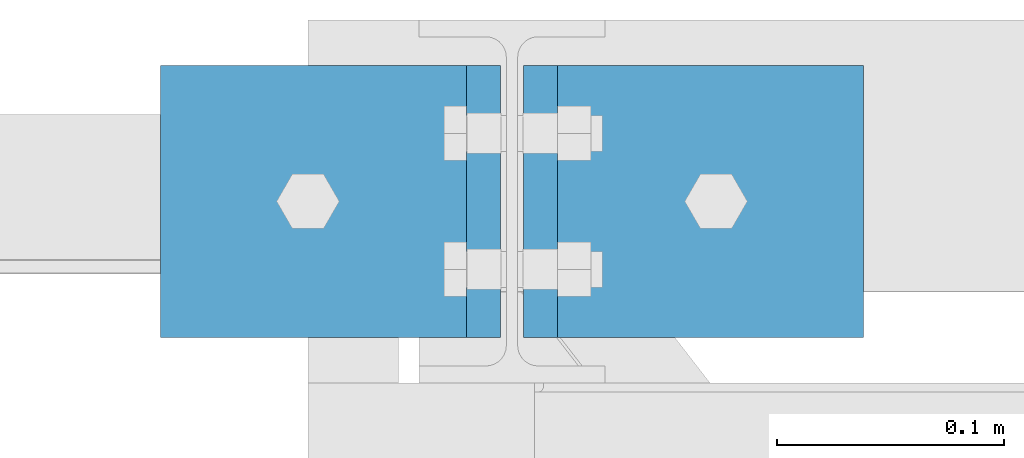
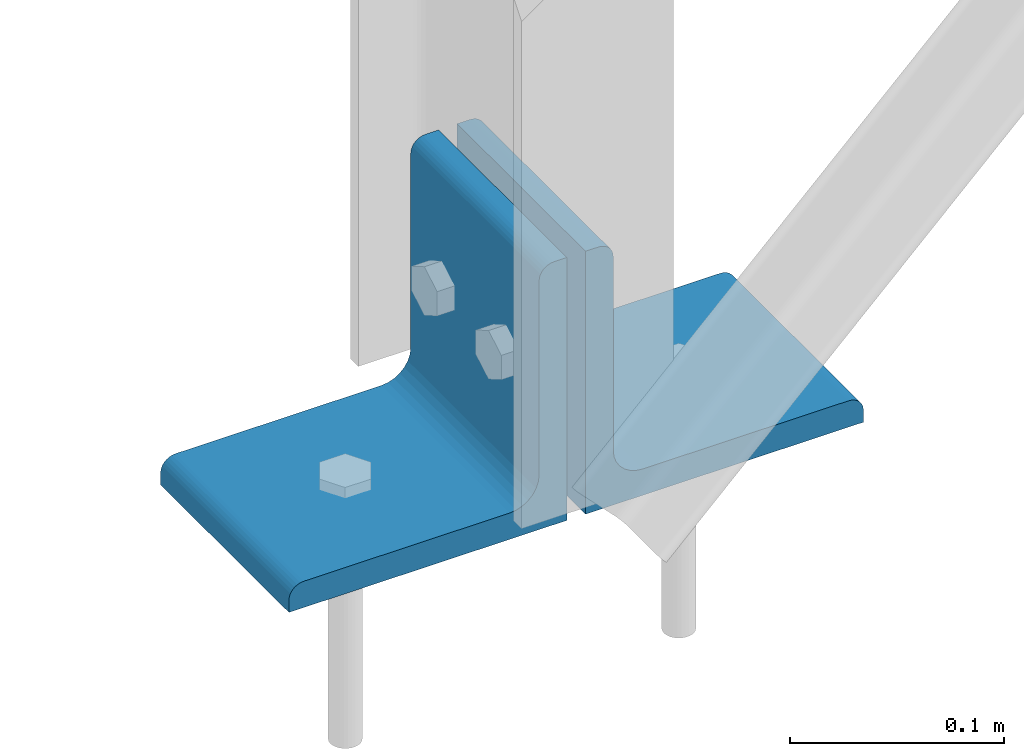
# One storey, part 47 of 123: 2 beams, 2 elements without a shape of their own.
"""IFC2X3 building model written with IfcOpenShell, lengths in millimetres."""

from ifc_helpers import new_model, si_unit, frame, origin_with_axes, origin_2d_with_axis, place, context, subcontext, project, spatial, l_section, extrude, material, type_object, element, aggregate, save


model = new_model("IFC2X3")

# Units and contexts
model_context = context("Model", 3, precision=1e-05, world=origin_with_axes())
body_context = subcontext(model_context, "Body", "Model", "MODEL_VIEW")
ifc_project = project(units=[si_unit("LENGTHUNIT", "METRE", prefix="MILLI"), si_unit("AREAUNIT", "SQUARE_METRE"), si_unit("VOLUMEUNIT", "CUBIC_METRE"), si_unit("MASSUNIT", "GRAM", prefix="KILO"), si_unit("TIMEUNIT", "SECOND"), si_unit("PLANEANGLEUNIT", "RADIAN"), si_unit("SOLIDANGLEUNIT", "STERADIAN"), si_unit("THERMODYNAMICTEMPERATUREUNIT", "DEGREE_CELSIUS"), si_unit("LUMINOUSINTENSITYUNIT", "LUMEN")], contexts=[model_context])

# Site, building, storey
site_placement = place(None, origin_with_axes())
site = spatial("IfcSite", under=ifc_project, at=site_placement, Name="Undefined", CompositionType="ELEMENT")
building_placement = place(site_placement, origin_with_axes())
building = spatial("IfcBuilding", under=site, at=building_placement, Name="Undefined", CompositionType="ELEMENT")
storey_placement = place(building_placement, origin_with_axes())
storey = spatial("IfcBuildingStorey", under=building, at=storey_placement, Name="Undefined", CompositionType="ELEMENT", Elevation=0.0)

# Assembly, beam
assembly_1_placement = place(storey_placement, origin_with_axes())
assembly_1 = element("IfcElementAssembly", 1, at=assembly_1_placement, inside=storey, Name="Steel Assembly", AssemblyPlace="NOTDEFINED", PredefinedType="RIGID_FRAME")
ifc_material = material(Name="STEEL/S235-E24")
beam_type = type_object("IfcBeamType", Name="L150*15", PredefinedType="NOTDEFINED")
beam_1_placement = place(assembly_1_placement, frame((28850.0000297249, 29299.9999987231, -175.0), z_axis=(0.0, 0.0, 1.0), x_axis=(0.0, -1.0, 0.0)))
beam_1 = element("IfcBeam", 2, at=beam_1_placement, type_object=beam_type, material=ifc_material, Name="ATTACHE", ObjectType="L150*15", context=body_context, shape_type="SweptSolid", body=[
    extrude(l_section(Depth=150.0, Width=150.0, Thickness=15.0, FilletRadius=16.0, EdgeRadius=8.0, at=origin_2d_with_axis()), frame((120.0, 0.0, 0.0), z_axis=(-1.0, 0.0, 0.0), x_axis=(0.0, -1.0, 0.0)), (0.0, 0.0, 1.0), 120.0),
])
aggregate(assembly_1, [beam_1])

assembly_2_placement = place(storey_placement, origin_with_axes())
assembly_2 = element("IfcElementAssembly", 3, at=assembly_2_placement, inside=storey, Name="Steel Assembly", AssemblyPlace="NOTDEFINED", PredefinedType="RIGID_FRAME")
beam_2_placement = place(assembly_2_placement, frame((29009.9999702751, 29179.9999987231, -175.0), z_axis=(0.0, 0.0, 1.0), x_axis=(0.0, 1.0, 0.0)))
beam_2 = element("IfcBeam", 4, at=beam_2_placement, type_object=beam_type, material=ifc_material, Name="ATTACHE", ObjectType="L150*15", context=body_context, shape_type="SweptSolid", body=[
    extrude(l_section(Depth=150.0, Width=150.0, Thickness=15.0, FilletRadius=16.0, EdgeRadius=8.0, at=origin_2d_with_axis()), frame((120.0, 0.0, 0.0), z_axis=(-1.0, 0.0, 0.0), x_axis=(0.0, -1.0, 0.0)), (0.0, 0.0, 1.0), 120.0),
])
aggregate(assembly_2, [beam_2])

save(model, "model.ifc")
